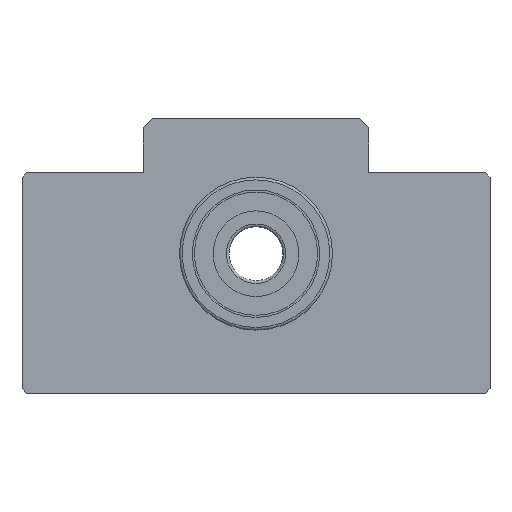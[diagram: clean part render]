
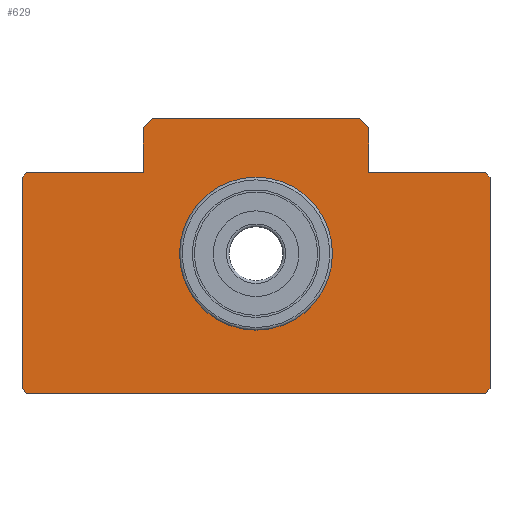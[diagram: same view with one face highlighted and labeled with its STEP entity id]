
A CAD part, top view. The second image highlights one B-rep face of the part: STEP entity #629.
In plain terms, the highlighted planar face has unit normal (0, 0, 1).
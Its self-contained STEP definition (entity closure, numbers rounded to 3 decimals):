
#51=CIRCLE('',#700,8.5);
#154=ORIENTED_EDGE('',*,*,#265,.F.);
#155=ORIENTED_EDGE('',*,*,#221,.T.);
#156=ORIENTED_EDGE('',*,*,#225,.T.);
#157=ORIENTED_EDGE('',*,*,#228,.T.);
#158=ORIENTED_EDGE('',*,*,#233,.T.);
#159=ORIENTED_EDGE('',*,*,#236,.T.);
#160=ORIENTED_EDGE('',*,*,#239,.T.);
#161=ORIENTED_EDGE('',*,*,#242,.T.);
#162=ORIENTED_EDGE('',*,*,#246,.T.);
#163=ORIENTED_EDGE('',*,*,#249,.T.);
#164=ORIENTED_EDGE('',*,*,#252,.T.);
#165=ORIENTED_EDGE('',*,*,#255,.T.);
#166=ORIENTED_EDGE('',*,*,#258,.T.);
#167=ORIENTED_EDGE('',*,*,#261,.T.);
#168=ORIENTED_EDGE('',*,*,#267,.T.);
#221=EDGE_CURVE('',#293,#294,#351,.T.);
#225=EDGE_CURVE('',#294,#297,#355,.T.);
#228=EDGE_CURVE('',#297,#299,#358,.T.);
#233=EDGE_CURVE('',#299,#303,#361,.T.);
#236=EDGE_CURVE('',#303,#305,#364,.T.);
#239=EDGE_CURVE('',#305,#307,#367,.T.);
#242=EDGE_CURVE('',#307,#309,#370,.T.);
#246=EDGE_CURVE('',#309,#312,#373,.T.);
#249=EDGE_CURVE('',#312,#314,#376,.T.);
#252=EDGE_CURVE('',#314,#316,#379,.T.);
#255=EDGE_CURVE('',#316,#318,#382,.T.);
#258=EDGE_CURVE('',#318,#320,#385,.T.);
#261=EDGE_CURVE('',#320,#322,#388,.T.);
#265=EDGE_CURVE('',#325,#325,#51,.T.);
#267=EDGE_CURVE('',#322,#293,#391,.T.);
#293=VERTEX_POINT('',#954);
#294=VERTEX_POINT('',#955);
#297=VERTEX_POINT('',#963);
#299=VERTEX_POINT('',#969);
#303=VERTEX_POINT('',#979);
#305=VERTEX_POINT('',#985);
#307=VERTEX_POINT('',#991);
#309=VERTEX_POINT('',#997);
#312=VERTEX_POINT('',#1005);
#314=VERTEX_POINT('',#1011);
#316=VERTEX_POINT('',#1017);
#318=VERTEX_POINT('',#1023);
#320=VERTEX_POINT('',#1029);
#322=VERTEX_POINT('',#1035);
#325=VERTEX_POINT('',#1043);
#351=LINE('',#953,#393);
#355=LINE('',#962,#397);
#358=LINE('',#968,#400);
#361=LINE('',#978,#403);
#364=LINE('',#984,#406);
#367=LINE('',#990,#409);
#370=LINE('',#996,#412);
#373=LINE('',#1004,#415);
#376=LINE('',#1010,#418);
#379=LINE('',#1016,#421);
#382=LINE('',#1022,#424);
#385=LINE('',#1028,#427);
#388=LINE('',#1034,#430);
#391=LINE('',#1047,#433);
#393=VECTOR('',#761,1000.);
#397=VECTOR('',#767,1000.);
#400=VECTOR('',#772,1000.);
#403=VECTOR('',#781,1000.);
#406=VECTOR('',#786,1000.);
#409=VECTOR('',#791,1000.);
#412=VECTOR('',#796,1000.);
#415=VECTOR('',#803,1000.);
#418=VECTOR('',#808,1000.);
#421=VECTOR('',#813,1000.);
#424=VECTOR('',#818,1000.);
#427=VECTOR('',#823,1000.);
#430=VECTOR('',#828,1000.);
#433=VECTOR('',#841,1000.);
#457=EDGE_LOOP('',(#154));
#458=EDGE_LOOP('',(#155,#156,#157,#158,#159,#160,#161,#162,#163,#164,#165,
#166,#167,#168));
#533=FACE_BOUND('',#457,.T.);
#534=FACE_BOUND('',#458,.T.);
#602=PLANE('',#704);
#629=ADVANCED_FACE('',(#533,#534),#602,.T.);
#700=AXIS2_PLACEMENT_3D('',#1042,#835,#836);
#704=AXIS2_PLACEMENT_3D('',#1050,#845,#846);
#761=DIRECTION('',(-0.707,-0.707,0.));
#767=DIRECTION('',(0.,-1.,0.));
#772=DIRECTION('',(0.707,-0.707,0.));
#781=DIRECTION('',(1.,0.,0.));
#786=DIRECTION('',(0.707,0.707,0.));
#791=DIRECTION('',(0.,1.,0.));
#796=DIRECTION('',(-0.707,0.707,0.));
#803=DIRECTION('',(-1.,0.,0.));
#808=DIRECTION('',(0.,1.,0.));
#813=DIRECTION('',(-0.707,0.707,0.));
#818=DIRECTION('',(-1.,0.,0.));
#823=DIRECTION('',(-0.707,-0.707,0.));
#828=DIRECTION('',(0.,-1.,0.));
#835=DIRECTION('',(0.,0.,1.));
#836=DIRECTION('',(1.,0.,0.));
#841=DIRECTION('',(-1.,0.,0.));
#845=DIRECTION('',(0.,0.,1.));
#846=DIRECTION('',(1.,0.,0.));
#953=CARTESIAN_POINT('',(-25.5,9.,0.));
#954=CARTESIAN_POINT('',(-25.5,9.,0.));
#955=CARTESIAN_POINT('',(-26.,8.5,0.));
#962=CARTESIAN_POINT('',(-26.,8.5,0.));
#963=CARTESIAN_POINT('',(-26.,-15.,0.));
#968=CARTESIAN_POINT('',(-26.,-15.,0.));
#969=CARTESIAN_POINT('',(-25.5,-15.5,0.));
#978=CARTESIAN_POINT('',(-25.5,-15.5,0.));
#979=CARTESIAN_POINT('',(25.5,-15.5,0.));
#984=CARTESIAN_POINT('',(25.5,-15.5,0.));
#985=CARTESIAN_POINT('',(26.,-15.,0.));
#990=CARTESIAN_POINT('',(26.,-15.,0.));
#991=CARTESIAN_POINT('',(26.,8.5,0.));
#996=CARTESIAN_POINT('',(26.,8.5,0.));
#997=CARTESIAN_POINT('',(25.5,9.,0.));
#1004=CARTESIAN_POINT('',(25.5,9.,0.));
#1005=CARTESIAN_POINT('',(12.5,9.,0.));
#1010=CARTESIAN_POINT('',(12.5,9.,0.));
#1011=CARTESIAN_POINT('',(12.5,14.,0.));
#1016=CARTESIAN_POINT('',(12.5,14.,0.));
#1017=CARTESIAN_POINT('',(11.5,15.,0.));
#1022=CARTESIAN_POINT('',(11.5,15.,0.));
#1023=CARTESIAN_POINT('',(-11.5,15.,0.));
#1028=CARTESIAN_POINT('',(-11.5,15.,0.));
#1029=CARTESIAN_POINT('',(-12.5,14.,0.));
#1034=CARTESIAN_POINT('',(-12.5,14.,0.));
#1035=CARTESIAN_POINT('',(-12.5,9.,0.));
#1042=CARTESIAN_POINT('',(0.,0.,0.));
#1043=CARTESIAN_POINT('',(8.5,0.,0.));
#1047=CARTESIAN_POINT('',(-12.5,9.,0.));
#1050=CARTESIAN_POINT('',(0.,0.,0.));
